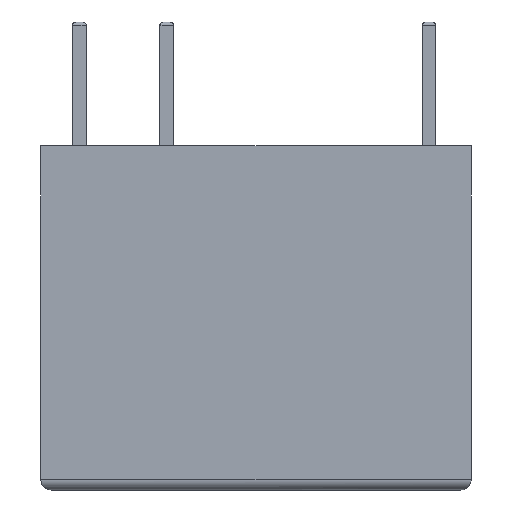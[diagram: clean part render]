
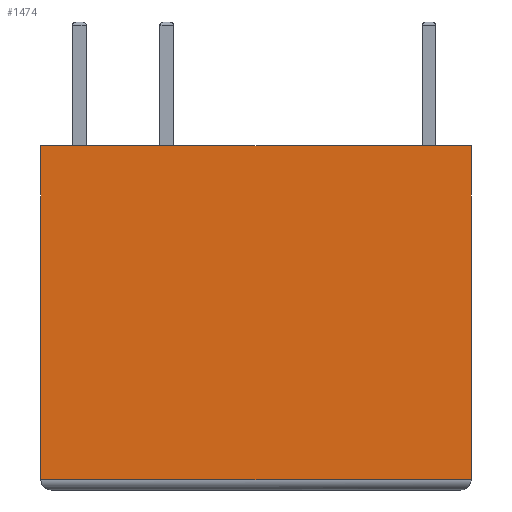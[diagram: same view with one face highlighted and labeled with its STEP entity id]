
A CAD part, front view. The second image highlights one B-rep face of the part: STEP entity #1474.
In plain terms, the highlighted planar face has unit normal (0, -1, 0).
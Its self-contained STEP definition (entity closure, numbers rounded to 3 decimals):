
#126 = PLANE('',#127);
#127 = AXIS2_PLACEMENT_3D('',#128,#129,#130);
#128 = CARTESIAN_POINT('',(8.715,5.978,10.));
#129 = DIRECTION('',(-0.,-0.,-1.));
#130 = DIRECTION('',(-1.,0.,0.));
#360 = VERTEX_POINT('',#361);
#361 = CARTESIAN_POINT('',(14.965,2.228,10.));
#375 = PLANE('',#376);
#376 = AXIS2_PLACEMENT_3D('',#377,#378,#379);
#377 = CARTESIAN_POINT('',(14.965,9.728,0.));
#378 = DIRECTION('',(1.,0.,0.));
#379 = DIRECTION('',(0.,-1.,0.));
#387 = EDGE_CURVE('',#360,#388,#390,.T.);
#388 = VERTEX_POINT('',#389);
#389 = CARTESIAN_POINT('',(2.465,2.228,10.));
#390 = SURFACE_CURVE('',#391,(#395,#402),.PCURVE_S1.);
#391 = LINE('',#392,#393);
#392 = CARTESIAN_POINT('',(14.965,2.228,10.));
#393 = VECTOR('',#394,1.);
#394 = DIRECTION('',(-1.,0.,0.));
#395 = PCURVE('',#126,#396);
#396 = DEFINITIONAL_REPRESENTATION('',(#397),#401);
#397 = LINE('',#398,#399);
#398 = CARTESIAN_POINT('',(-6.25,-3.75));
#399 = VECTOR('',#400,1.);
#400 = DIRECTION('',(1.,0.));
#401 = ( GEOMETRIC_REPRESENTATION_CONTEXT(2) 
PARAMETRIC_REPRESENTATION_CONTEXT() REPRESENTATION_CONTEXT('2D SPACE',''
  ) );
#402 = PCURVE('',#403,#408);
#403 = PLANE('',#404);
#404 = AXIS2_PLACEMENT_3D('',#405,#406,#407);
#405 = CARTESIAN_POINT('',(14.965,2.228,0.));
#406 = DIRECTION('',(0.,-1.,0.));
#407 = DIRECTION('',(-1.,0.,0.));
#408 = DEFINITIONAL_REPRESENTATION('',(#409),#413);
#409 = LINE('',#410,#411);
#410 = CARTESIAN_POINT('',(0.,-10.));
#411 = VECTOR('',#412,1.);
#412 = DIRECTION('',(1.,0.));
#413 = ( GEOMETRIC_REPRESENTATION_CONTEXT(2) 
PARAMETRIC_REPRESENTATION_CONTEXT() REPRESENTATION_CONTEXT('2D SPACE',''
  ) );
#429 = PLANE('',#430);
#430 = AXIS2_PLACEMENT_3D('',#431,#432,#433);
#431 = CARTESIAN_POINT('',(2.465,2.228,0.));
#432 = DIRECTION('',(-1.,0.,0.));
#433 = DIRECTION('',(0.,1.,0.));
#1370 = EDGE_CURVE('',#1371,#388,#1373,.T.);
#1371 = VERTEX_POINT('',#1372);
#1372 = CARTESIAN_POINT('',(2.465,2.228,0.3));
#1373 = SURFACE_CURVE('',#1374,(#1378,#1385),.PCURVE_S1.);
#1374 = LINE('',#1375,#1376);
#1375 = CARTESIAN_POINT('',(2.465,2.228,0.));
#1376 = VECTOR('',#1377,1.);
#1377 = DIRECTION('',(0.,0.,1.));
#1378 = PCURVE('',#429,#1379);
#1379 = DEFINITIONAL_REPRESENTATION('',(#1380),#1384);
#1380 = LINE('',#1381,#1382);
#1381 = CARTESIAN_POINT('',(0.,0.));
#1382 = VECTOR('',#1383,1.);
#1383 = DIRECTION('',(0.,-1.));
#1384 = ( GEOMETRIC_REPRESENTATION_CONTEXT(2) 
PARAMETRIC_REPRESENTATION_CONTEXT() REPRESENTATION_CONTEXT('2D SPACE',''
  ) );
#1385 = PCURVE('',#403,#1386);
#1386 = DEFINITIONAL_REPRESENTATION('',(#1387),#1391);
#1387 = LINE('',#1388,#1389);
#1388 = CARTESIAN_POINT('',(12.5,0.));
#1389 = VECTOR('',#1390,1.);
#1390 = DIRECTION('',(0.,-1.));
#1391 = ( GEOMETRIC_REPRESENTATION_CONTEXT(2) 
PARAMETRIC_REPRESENTATION_CONTEXT() REPRESENTATION_CONTEXT('2D SPACE',''
  ) );
#1426 = EDGE_CURVE('',#1427,#360,#1429,.T.);
#1427 = VERTEX_POINT('',#1428);
#1428 = CARTESIAN_POINT('',(14.965,2.228,0.3));
#1429 = SURFACE_CURVE('',#1430,(#1434,#1441),.PCURVE_S1.);
#1430 = LINE('',#1431,#1432);
#1431 = CARTESIAN_POINT('',(14.965,2.228,0.));
#1432 = VECTOR('',#1433,1.);
#1433 = DIRECTION('',(0.,0.,1.));
#1434 = PCURVE('',#375,#1435);
#1435 = DEFINITIONAL_REPRESENTATION('',(#1436),#1440);
#1436 = LINE('',#1437,#1438);
#1437 = CARTESIAN_POINT('',(7.5,0.));
#1438 = VECTOR('',#1439,1.);
#1439 = DIRECTION('',(0.,-1.));
#1440 = ( GEOMETRIC_REPRESENTATION_CONTEXT(2) 
PARAMETRIC_REPRESENTATION_CONTEXT() REPRESENTATION_CONTEXT('2D SPACE',''
  ) );
#1441 = PCURVE('',#403,#1442);
#1442 = DEFINITIONAL_REPRESENTATION('',(#1443),#1447);
#1443 = LINE('',#1444,#1445);
#1444 = CARTESIAN_POINT('',(0.,-0.));
#1445 = VECTOR('',#1446,1.);
#1446 = DIRECTION('',(0.,-1.));
#1447 = ( GEOMETRIC_REPRESENTATION_CONTEXT(2) 
PARAMETRIC_REPRESENTATION_CONTEXT() REPRESENTATION_CONTEXT('2D SPACE',''
  ) );
#1474 = ADVANCED_FACE('',(#1475),#403,.T.);
#1475 = FACE_BOUND('',#1476,.T.);
#1476 = EDGE_LOOP('',(#1477,#1478,#1479,#1480));
#1477 = ORIENTED_EDGE('',*,*,#1426,.T.);
#1478 = ORIENTED_EDGE('',*,*,#387,.T.);
#1479 = ORIENTED_EDGE('',*,*,#1370,.F.);
#1480 = ORIENTED_EDGE('',*,*,#1481,.F.);
#1481 = EDGE_CURVE('',#1427,#1371,#1482,.T.);
#1482 = SURFACE_CURVE('',#1483,(#1487,#1494),.PCURVE_S1.);
#1483 = LINE('',#1484,#1485);
#1484 = CARTESIAN_POINT('',(14.965,2.228,0.3));
#1485 = VECTOR('',#1486,1.);
#1486 = DIRECTION('',(-1.,0.,0.));
#1487 = PCURVE('',#403,#1488);
#1488 = DEFINITIONAL_REPRESENTATION('',(#1489),#1493);
#1489 = LINE('',#1490,#1491);
#1490 = CARTESIAN_POINT('',(0.,-0.3));
#1491 = VECTOR('',#1492,1.);
#1492 = DIRECTION('',(1.,0.));
#1493 = ( GEOMETRIC_REPRESENTATION_CONTEXT(2) 
PARAMETRIC_REPRESENTATION_CONTEXT() REPRESENTATION_CONTEXT('2D SPACE',''
  ) );
#1494 = PCURVE('',#1495,#1500);
#1495 = CYLINDRICAL_SURFACE('',#1496,0.3);
#1496 = AXIS2_PLACEMENT_3D('',#1497,#1498,#1499);
#1497 = CARTESIAN_POINT('',(14.965,2.528,0.3));
#1498 = DIRECTION('',(-1.,0.,0.));
#1499 = DIRECTION('',(0.,0.,-1.));
#1500 = DEFINITIONAL_REPRESENTATION('',(#1501),#1505);
#1501 = LINE('',#1502,#1503);
#1502 = CARTESIAN_POINT('',(1.571,0.));
#1503 = VECTOR('',#1504,1.);
#1504 = DIRECTION('',(0.,1.));
#1505 = ( GEOMETRIC_REPRESENTATION_CONTEXT(2) 
PARAMETRIC_REPRESENTATION_CONTEXT() REPRESENTATION_CONTEXT('2D SPACE',''
  ) );
